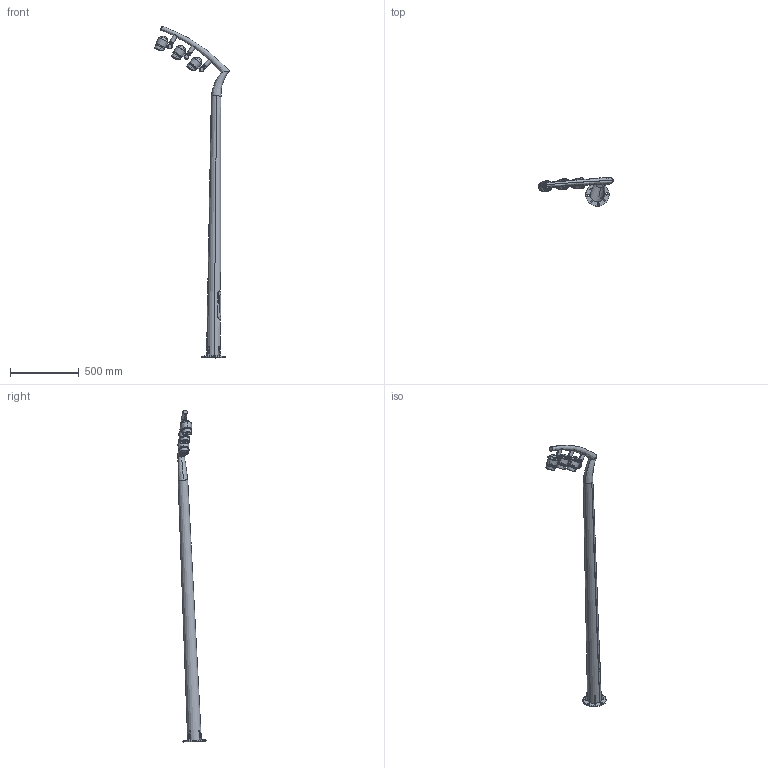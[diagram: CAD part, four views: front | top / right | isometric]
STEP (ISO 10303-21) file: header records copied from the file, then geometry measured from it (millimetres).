
FILE_DESCRIPTION((''),'2;1');
FILE_NAME('0BR_ASM_ASM','2025-09-04T17:07:02',('Administrator'),(''),'CREO PARAMETRIC BY PTC INC, 2021063','CREO PARAMETRIC BY PTC INC, 2021063','');
FILE_SCHEMA(('CONFIG_CONTROL_DESIGN'));
Length unit declared in the file: millimetre
Products named in the file (89): 0BR-C__15; 3BR_ASM_13_ASM_1_ASM_4; 9BR__ASM_3_ASM_3_ASM; CE70_F_ANY_1_ANY_1; M3-6-00_1_ANY_1; M3-10_1_ANY_1; CE70_D____ANY_1_ANY_1; M3-16_1_ANY_1; 3BR-A_1_ANY_1; CE_70_B_1_ANY_1_ANY_1; O-22_1_ANY_1; M3-6_1_ANY_1; CE70_A_ANY_1_ANY_1; DIAN_YUAN-70-1_1_ANY_1; M3-0_1_ANY_1; PRT0025_1_ANY_1_ANY_1; M3-6-1_1_ANY_1; 2019-3EJ_1_1_ANY_1; COB-10_1_1_1_ANY_1; HOLDER-3522-A0-1313_1_1_ANY_1; B71_1_ANY_1; 05024A-59535_1_ASM_1_ASM_1_ASM__ASM; 3EJ___1_ASM_1_ASM_1_ASM_ANY_ASM_ASM; CE70_B______1__1_ANY_1_ANY_2; 3BR-B_1_ANY_1; 3BR__1; 0BR-__1; 70__ASM_5_ASM_ANY_ASM_5_ASM; CE70_F_ANY_1_ANY_1_1_1; M3-6-00_1_ANY_1_1_1; M3-10_1_ANY_1_1_1; CE70_D____ANY_1_ANY_1_1_1; M3-16_1_ANY_1_1_1; 3BR-A_1_ANY_1_1_1; CE_70_B_1_ANY_1_ANY_1_1_1; O-22_1_ANY_1_1_1; M3-6_1_ANY_1_1_1; CE70_A_ANY_1_ANY_1_1_1; DIAN_YUAN-70-1_1_ANY_1_1_1; M3-0_1_ANY_1_1_1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
Assembly tree (125 placements, depth 7):
  0BR_ASM_ASM
    0BR_ASM_70_ASM
      0BR-C__15
      9BR__ASM_3_ASM_3_ASM
        3BR_ASM_13_ASM_1_ASM_4
      70__ASM_5_ASM_ANY_ASM_5_ASM
        CE70_F_ANY_1_ANY_1
        M3-6-00_1_ANY_1  x3
        M3-10_1_ANY_1  x4
        CE70_D____ANY_1_ANY_1
        M3-16_1_ANY_1  x4
        3BR-A_1_ANY_1
        CE_70_B_1_ANY_1_ANY_1
        O-22_1_ANY_1
        M3-6_1_ANY_1  x2
        CE70_A_ANY_1_ANY_1
        DIAN_YUAN-70-1_1_ANY_1
        M3-0_1_ANY_1
        PRT0025_1_ANY_1_ANY_1
        M3-6-1_1_ANY_1  x2
        3EJ___1_ASM_1_ASM_1_ASM_ANY_ASM_ASM
          2019-3EJ_1_1_ANY_1
          05024A-59535_1_ASM_1_ASM_1_ASM__ASM
            COB-10_1_1_1_ANY_1
            HOLDER-3522-A0-1313_1_1_ANY_1
            B71_1_ANY_1
        CE70_B______1__1_ANY_1_ANY_2
        3BR-B_1_ANY_1
        3BR__1
        0BR-__1
      70_ASM_4_ASM
        70__ASM_5_ASM_ANY_ASM_2_1_ASM_3_ASM
          CE70_F_ANY_1_ANY_1_1_1
          M3-6-00_1_ANY_1_1_1  x3
          M3-10_1_ANY_1_1_1  x4
          CE70_D____ANY_1_ANY_1_1_1
          M3-16_1_ANY_1_1_1  x4
          3BR-A_1_ANY_1_1_1
          CE_70_B_1_ANY_1_ANY_1_1_1
          O-22_1_ANY_1_1_1
          M3-6_1_ANY_1_1_1  x2
          CE70_A_ANY_1_ANY_1_1_1
          DIAN_YUAN-70-1_1_ANY_1_1_1
          M3-0_1_ANY_1_1_1
          PRT0025_1_ANY_1_ANY_1_1_1
          M3-6-1_1_ANY_1_1_1  x2
          3EJ___1_ASM_1_ASM_1_ASM_ANY_A_1_ASM
            2019-3EJ_1_1_ANY_1_1_1
            05024A-59535_1_ASM_1_ASM_1_AS_2_ASM
              COB-10_1_1_1_ANY_1_1_1
              HOLDER-3522-A0-1313_1_1_ANY_1_1
              B71_1_ANY_1_1_1
          CE70_B______1__1_ANY_1_ANY_1_1_
          3BR-B_1_ANY_1_1_1
          3BR__1_1_1
        CE70_B______1__1_ANY_1_ANY_2
        PRT0021_1
      70-_ASM_3_ASM
        70__ASM_5_ASM_ANY_ASM_2_1_2_ASM_ASM
          CE70_F_ANY_1_ANY_1_1_2_1
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Bounding box: 544.75 x 206.82 x 2411.46 mm (x, y, z)
Volume: 2484536.7 mm3; surface area: 2595241.1 mm2
Topology: 106 solids, 121 shells, 6951 faces, 19134 edges, 12604 vertices
Faces by surface type: plane 3399, cylinder 1425, bspline 824, cone 704, torus 492, sphere 57, revolution 48, extrusion 2
Entity records: 228164 total; most frequent: CARTESIAN_POINT 95393, ORIENTED_EDGE 29642, DIRECTION 24672, EDGE_CURVE 14821, VERTEX_POINT 9818, AXIS2_PLACEMENT_3D 9028, VECTOR 6586, LINE 6584
